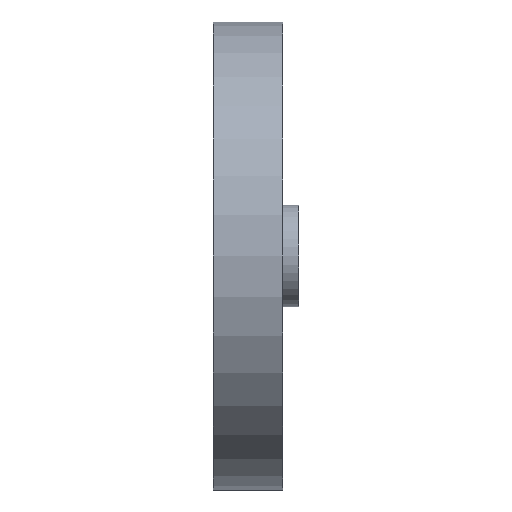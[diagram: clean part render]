
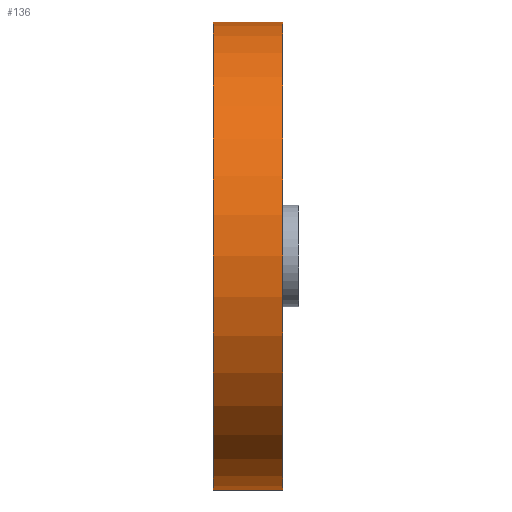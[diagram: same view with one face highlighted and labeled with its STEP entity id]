
A CAD part, front view. The second image highlights one B-rep face of the part: STEP entity #136.
In plain terms, the highlighted cylindrical face has radius 30 mm (diameter 60 mm), a partial arc.
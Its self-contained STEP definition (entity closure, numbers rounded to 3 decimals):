
#79 = CARTESIAN_POINT ( 'NONE',  ( -3.001, 0., -30. ) ) ;
#83 = CARTESIAN_POINT ( 'NONE',  ( 5.901, 0., 30. ) ) ;
#109 = DIRECTION ( 'NONE',  ( -1., 0., 0. ) ) ;
#122 = LINE ( 'NONE', #1024, #176 ) ;
#136 = ADVANCED_FACE ( 'NONE', ( #2217 ), #1518, .T. ) ;
#148 = DIRECTION ( 'NONE',  ( 0., 0., 1. ) ) ;
#163 = VERTEX_POINT ( 'NONE', #83 ) ;
#176 = VECTOR ( 'NONE', #109, 1000. ) ;
#209 = CARTESIAN_POINT ( 'NONE',  ( 5.901, 0., -30. ) ) ;
#221 = AXIS2_PLACEMENT_3D ( 'NONE', #661, #627, #1908 ) ;
#281 = EDGE_LOOP ( 'NONE', ( #1115, #2272, #1397, #1412 ) ) ;
#483 = AXIS2_PLACEMENT_3D ( 'NONE', #2332, #1237, #148 ) ;
#493 = CARTESIAN_POINT ( 'NONE',  ( 5.901, 0., 0. ) ) ;
#558 = EDGE_CURVE ( 'NONE', #1959, #1439, #2166, .T. ) ;
#569 = EDGE_CURVE ( 'NONE', #163, #1439, #2099, .T. ) ;
#627 = DIRECTION ( 'NONE',  ( -1., 0., 0. ) ) ;
#661 = CARTESIAN_POINT ( 'NONE',  ( -3., 0., 0. ) ) ;
#692 = DIRECTION ( 'NONE',  ( -1., 0., 0. ) ) ;
#803 = DIRECTION ( 'NONE',  ( 0., 0., 1. ) ) ;
#1024 = CARTESIAN_POINT ( 'NONE',  ( -3., 0., -30. ) ) ;
#1115 = ORIENTED_EDGE ( 'NONE', *, *, #1351, .F. ) ;
#1237 = DIRECTION ( 'NONE',  ( -1., 0., 0. ) ) ;
#1286 = AXIS2_PLACEMENT_3D ( 'NONE', #493, #1596, #803 ) ;
#1351 = EDGE_CURVE ( 'NONE', #1561, #1959, #122, .T. ) ;
#1397 = ORIENTED_EDGE ( 'NONE', *, *, #569, .T. ) ;
#1412 = ORIENTED_EDGE ( 'NONE', *, *, #558, .F. ) ;
#1438 = CARTESIAN_POINT ( 'NONE',  ( -3.001, 0., 30. ) ) ;
#1439 = VERTEX_POINT ( 'NONE', #1438 ) ;
#1518 = CYLINDRICAL_SURFACE ( 'NONE', #221, 30. ) ;
#1561 = VERTEX_POINT ( 'NONE', #209 ) ;
#1596 = DIRECTION ( 'NONE',  ( -1., 0., 0. ) ) ;
#1622 = VECTOR ( 'NONE', #692, 1000. ) ;
#1908 = DIRECTION ( 'NONE',  ( 0., 0., 1. ) ) ;
#1934 = CIRCLE ( 'NONE', #1286, 30. ) ;
#1955 = CARTESIAN_POINT ( 'NONE',  ( -3., 0., 30. ) ) ;
#1959 = VERTEX_POINT ( 'NONE', #79 ) ;
#2074 = EDGE_CURVE ( 'NONE', #1561, #163, #1934, .T. ) ;
#2099 = LINE ( 'NONE', #1955, #1622 ) ;
#2166 = CIRCLE ( 'NONE', #483, 30. ) ;
#2217 = FACE_OUTER_BOUND ( 'NONE', #281, .T. ) ;
#2272 = ORIENTED_EDGE ( 'NONE', *, *, #2074, .T. ) ;
#2332 = CARTESIAN_POINT ( 'NONE',  ( -3.001, 0., 0. ) ) ;
